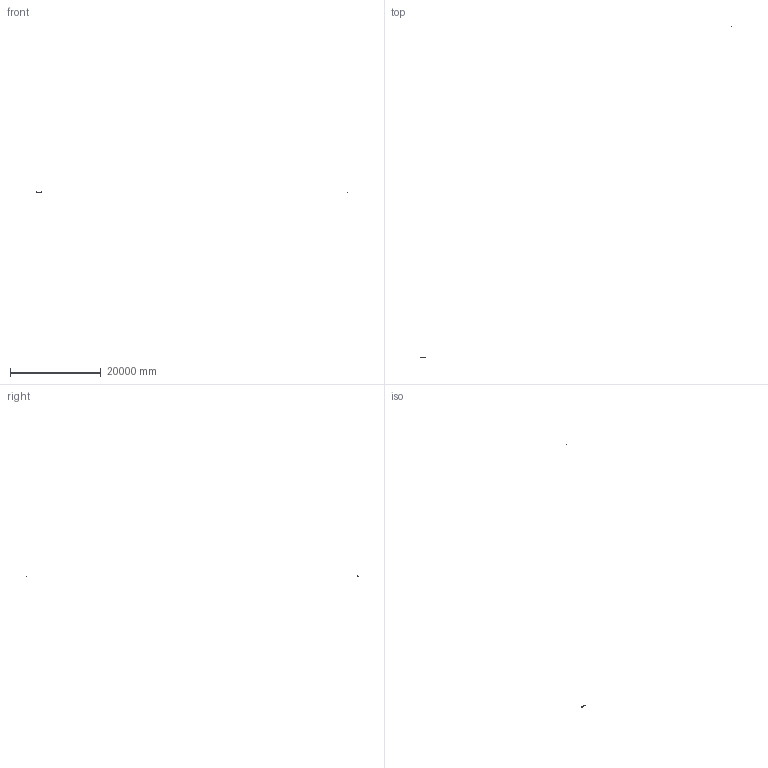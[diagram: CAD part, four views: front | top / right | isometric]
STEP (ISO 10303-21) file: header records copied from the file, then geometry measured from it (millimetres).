
FILE_DESCRIPTION(('Creo Elements/Direct Modeling STEP Export'),'2;1');
FILE_NAME('3D-Model_MLCSCW2_1120-48-R_yzz G3_(WU-M-763)_STC.stp','2025-05-06T13:37:31',(''),(''),'PTC Creo Elements/Direct Modeling STEP processor for AP214 (Solid Model)','PTC Creo Elements/Direct Modeling 19.0E 27-Jun-2016 (C) Parametric Technology GmbH','');
FILE_SCHEMA(('AUTOMOTIVE_DESIGN { 1 0 10303 214 1 1 1 1 }'));
Length unit declared in the file: millimetre
Products named in the file (234): p1.3; p1.2; p1.1; p1; PRINT.75; PRINT.77; PRINT.73; PRINT.74; PRINT.76; PRINT.68; PRINT.69; PRINT.78; PRINT.71; PRINT.70; PRINT.72; PRINT.24; PRINT.25; PRINT.15; PRINT.16; PRINT.23; PRINT.18; PRINT.20; PRINT.21; PRINT.17; PRINT.19; PRINT.22; PRINT.13; PRINT.14; PRINT.6; PRINT.7; PRINT.8; PRINT; PRINT.2; PRINT.1; PRINT.3; PRINT.4; PRINT.5; PRINT.10; PRINT.12; PRINT.9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
Assembly tree (226 placements, depth 2):
  p1.3
  p1.2
  p1.1
  p1
  Print-Service
    PRINT.127
    PRINT.123
    PRINT.125
    PRINT.113
    PRINT.124
    PRINT.118
    PRINT.122
    PRINT.126
    PRINT.121
    PRINT.117
    PRINT.110
    PRINT.106
    PRINT.102
    PRINT.95
    PRINT.94
    PRINT.93
    PRINT.96
    PRINT.103
    PRINT.104
    PRINT.100
    PRINT.98
    PRINT.111
    PRINT.90
    PRINT.99
    PRINT.107
    PRINT.92
    PRINT.108
    PRINT.105
    PRINT.101
    PRINT.112
    PRINT.97
    PRINT.109
    PRINT.91
    PRINT.115
    PRINT.114
    PRINT.120
    PRINT.119
    PRINT.116
    PRINT.55
    PRINT.47
    PRINT.54
    PRINT.50
    PRINT.53
    PRINT.52
    PRINT.51
    PRINT.46
    PRINT.48
    PRINT.56
    PRINT.49
    PRINT.89
    PRINT.86
    PRINT.88
    PRINT.83
    PRINT.87
    PRINT.82
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Bounding box: 68320.02 x 73000.67 x 3.7 mm (x, y, z)
Volume: 22541.6 mm3; surface area: 50418.9 mm2
Topology: 227 solids, 227 shells, 11844 faces, 32266 edges, 21154 vertices
Faces by surface type: plane 9361, cylinder 2483
Entity records: 138775 total; most frequent: CARTESIAN_POINT 19277, ORIENTED_EDGE 18742, DIRECTION 18548, EDGE_CURVE 9371, VECTOR 7412, LINE 7412, VERTEX_POINT 6239, AXIS2_PLACEMENT_3D 5568
